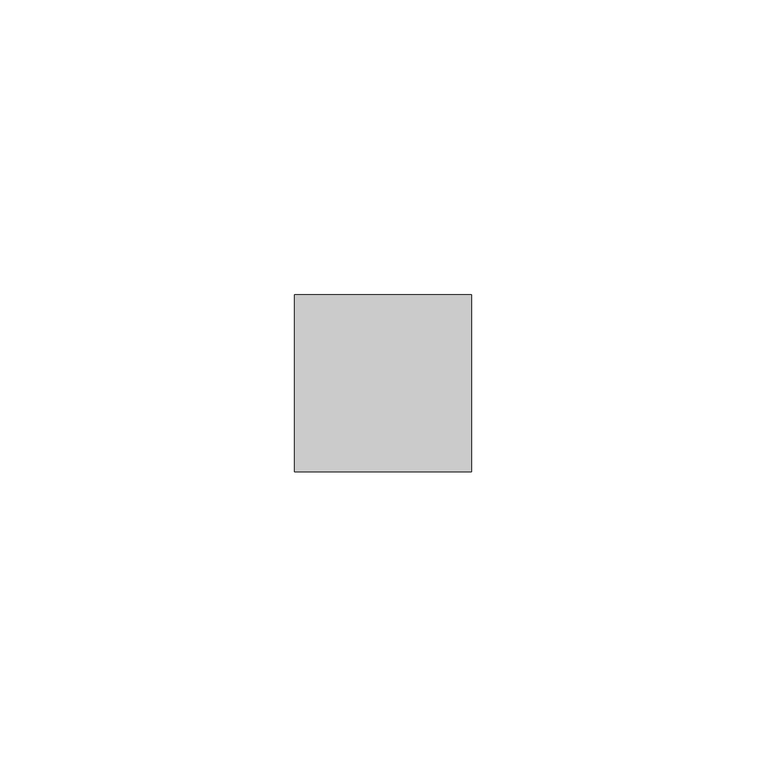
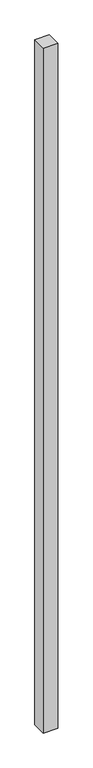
"""IFC4 building model written with IfcOpenShell, lengths in millimetres: member geometry, 矩形竖梃 : 30mm 正方形."""

from ifc_helpers import new_model, si_unit, frame, origin, place, context, project, spatial, polyline, outline, extrude, source, transform, mapped, element, save


def member_39920356(model_context):
    return source(origin(), model_context, "Body", "SweptSolid", [
        extrude(outline(polyline([(15.0, 15.0), (15.0, -15.0), (-15.0, -15.0), (-15.0, 15.0), (15.0, 15.0)])), frame((0.0, 0.0, -1500.0), z_axis=(0.0, 0.0, 1.0), x_axis=(1.0, 0.0, 0.0)), (0.0, 0.0, 1.0), 1500.0),
    ])


if __name__ == "__main__":
    model = new_model("IFC4")
    model_context = context("Model", 3, world=origin())
    ifc_project = project(units=[si_unit("LENGTHUNIT", "METRE", prefix="MILLI")], contexts=[model_context])
    site = spatial("IfcSite", under=ifc_project)
    building = spatial("IfcBuilding", under=site)
    placement = place(None, origin())
    member_shape = member_39920356(model_context)
    element("IfcMember", 1, ObjectType="矩形竖梃 : 30mm 正方形", at=placement, inside=building, context=model_context, shape_type="MappedRepresentation", body=[
        mapped(member_shape, transform((0.0, 0.0, 0.0), x_axis=(1.0, 0.0, 0.0), y_axis=(0.0, 1.0, 0.0), z_axis=(0.0, 0.0, 1.0))),
    ])
    save(model, "model.ifc")
